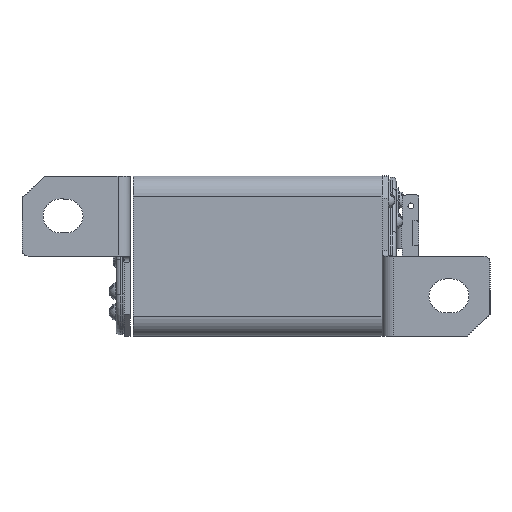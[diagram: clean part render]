
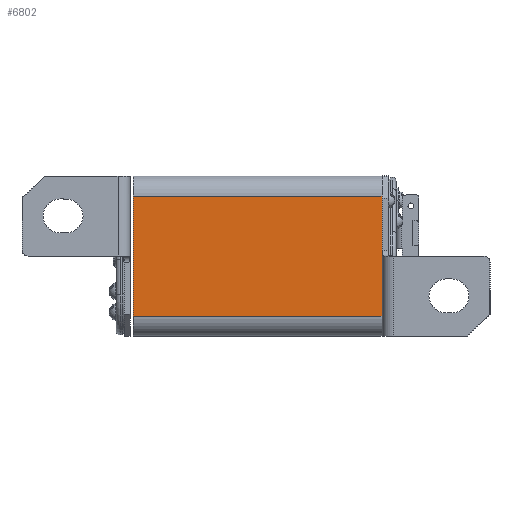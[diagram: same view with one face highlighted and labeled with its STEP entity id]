
A CAD part, front view. The second image highlights one B-rep face of the part: STEP entity #6802.
In plain terms, the highlighted planar face has unit normal (0, -1, 0).
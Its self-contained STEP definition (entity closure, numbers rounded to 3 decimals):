
#1829 = CARTESIAN_POINT ( 'NONE',  ( -60.478, -34.467, 30. ) ) ;
#1841 = CARTESIAN_POINT ( 'NONE',  ( 64.022, -34.467, 30. ) ) ;
#1852 = CARTESIAN_POINT ( 'NONE',  ( 64.022, -34.467, -30. ) ) ;
#1863 = DIRECTION ( 'NONE',  ( 0., 0., 1. ) ) ;
#1864 = VECTOR ( 'NONE', #1863, 1000. ) ;
#1865 = CARTESIAN_POINT ( 'NONE',  ( 64.022, -34.467, -30. ) ) ;
#1871 = LINE ( 'NONE', #1865, #1864 ) ;
#1877 = CARTESIAN_POINT ( 'NONE',  ( -60.478, -34.467, -30. ) ) ;
#2039 = PLANE ( 'NONE',  #2172 ) ;
#2040 = FACE_OUTER_BOUND ( 'NONE', #6853, .T. ) ;
#2049 = DIRECTION ( 'NONE',  ( 1., 0., 0. ) ) ;
#2050 = VECTOR ( 'NONE', #2049, 1000. ) ;
#2051 = CARTESIAN_POINT ( 'NONE',  ( -60.478, -34.467, -30. ) ) ;
#2052 = LINE ( 'NONE', #2051, #2050 ) ;
#2066 = DIRECTION ( 'NONE',  ( 1., 0., 0. ) ) ;
#2067 = VECTOR ( 'NONE', #2066, 1000. ) ;
#2068 = CARTESIAN_POINT ( 'NONE',  ( -60.478, -34.467, 30. ) ) ;
#2069 = LINE ( 'NONE', #2068, #2067 ) ;
#2169 = DIRECTION ( 'NONE',  ( 0., 0., -1. ) ) ;
#2170 = DIRECTION ( 'NONE',  ( 0., 1., 0. ) ) ;
#2171 = CARTESIAN_POINT ( 'NONE',  ( -60.478, -34.467, -30. ) ) ;
#2172 = AXIS2_PLACEMENT_3D ( 'NONE', #2171, #2170, #2169 ) ;
#2195 = DIRECTION ( 'NONE',  ( 0., 0., 1. ) ) ;
#2196 = VECTOR ( 'NONE', #2195, 1000. ) ;
#2197 = CARTESIAN_POINT ( 'NONE',  ( -60.478, -34.467, -30. ) ) ;
#2198 = LINE ( 'NONE', #2197, #2196 ) ;
#6777 = VERTEX_POINT ( 'NONE', #1852 ) ;
#6783 = ORIENTED_EDGE ( 'NONE', *, *, #6832, .F. ) ;
#6784 = VERTEX_POINT ( 'NONE', #1841 ) ;
#6785 = ORIENTED_EDGE ( 'NONE', *, *, #6826, .T. ) ;
#6788 = VERTEX_POINT ( 'NONE', #1829 ) ;
#6790 = VERTEX_POINT ( 'NONE', #1877 ) ;
#6795 = ORIENTED_EDGE ( 'NONE', *, *, #6796, .T. ) ;
#6796 = EDGE_CURVE ( 'NONE', #6777, #6784, #1871, .T. ) ;
#6802 = ADVANCED_FACE ( 'NONE', ( #2040 ), #2039, .F. ) ;
#6826 = EDGE_CURVE ( 'NONE', #6790, #6777, #2052, .T. ) ;
#6832 = EDGE_CURVE ( 'NONE', #6788, #6784, #2069, .T. ) ;
#6838 = ORIENTED_EDGE ( 'NONE', *, *, #6852, .F. ) ;
#6852 = EDGE_CURVE ( 'NONE', #6790, #6788, #2198, .T. ) ;
#6853 = EDGE_LOOP ( 'NONE', ( #6795, #6783, #6838, #6785 ) ) ;
